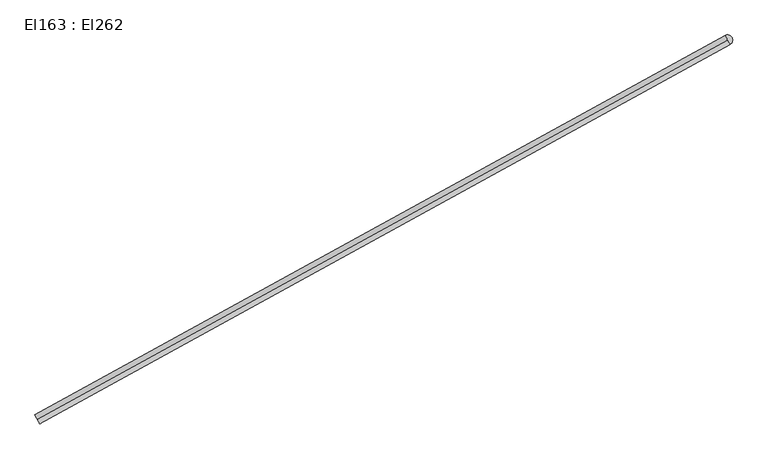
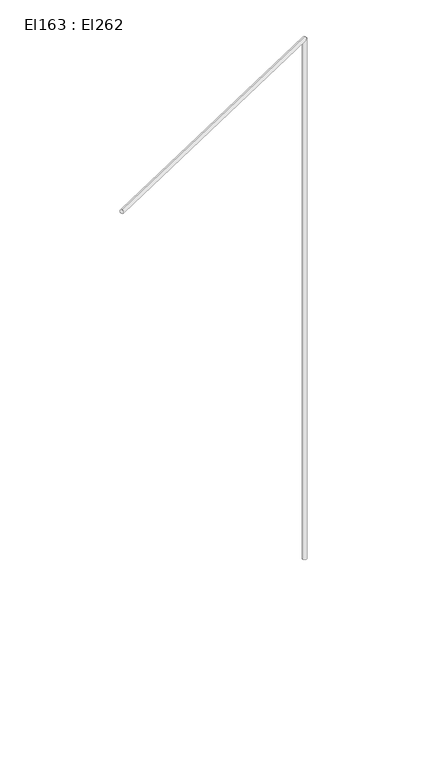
"""IFC4 building model written with IfcOpenShell, lengths in millimetres: cable carrier segment geometry, El163 : El262."""

from ifc_helpers import new_model, si_unit, point, frame, frame_2d, origin, place, context, project, spatial, circle_curve, trimmed, segment, composite_curve, outline, extrude, source, transform, mapped, element, save


def el163_el262_63760e00(model_context):
    return source(origin(), model_context, "Body", "SweptSolid", [
        extrude(outline(composite_curve([segment(trimmed(circle_curve(frame_2d((5364.4746511, 17433.4841745)), 9.5), [point((5354.9746511, 17433.4841745))], [point((5373.9746511, 17433.4841745))], False, "CARTESIAN"), True, "CONTINUOUS"), segment(trimmed(circle_curve(frame_2d((5364.4746511, 17433.4841745)), 9.5), [point((5373.9746511, 17433.4841745))], [point((5354.9746511, 17433.4841745))], False, "CARTESIAN"), True, "CONTINUOUS")], self_intersect=False)), frame((0.0, 0.0, 1830.0), z_axis=(0.0, 0.0, 1.0), x_axis=(1.0, 0.0, 0.0)), (0.0, 0.0, 1.0), 2620.0),
        extrude(outline(composite_curve([segment(trimmed(circle_curve(frame_2d((0.0, -9.5)), 9.5), [point((0.0, -19.0))], [point((0.0, 0.0))], False, "CARTESIAN"), True, "CONTINUOUS"), segment(trimmed(circle_curve(frame_2d((0.0, -9.5)), 9.5), [point((0.0, 0.0))], [point((0.0, -19.0))], False, "CARTESIAN"), True, "CONTINUOUS")], self_intersect=False)), frame((4088.4326511, 16731.7651745, 4459.5), z_axis=(0.8762460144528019, 0.481864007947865, 0.0), x_axis=(-0.481864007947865, 0.8762460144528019, 0.0)), (0.0, 0.0, 1.0), 1456.26),
    ])


if __name__ == "__main__":
    model = new_model("IFC4")
    model_context = context("Model", 3, world=origin())
    ifc_project = project(units=[si_unit("LENGTHUNIT", "METRE", prefix="MILLI")], contexts=[model_context])
    site = spatial("IfcSite", under=ifc_project)
    building = spatial("IfcBuilding", under=site)
    placement = place(None, origin())
    el163_el262_shape = el163_el262_63760e00(model_context)
    element("IfcCableCarrierSegment", 1, ObjectType="El163 : El262", at=placement, inside=building, context=model_context, shape_type="MappedRepresentation", body=[
        mapped(el163_el262_shape, transform((0.0, 0.0, 0.0), x_axis=(1.0, 0.0, 0.0), y_axis=(0.0, 1.0, 0.0), z_axis=(0.0, 0.0, 1.0))),
    ])
    save(model, "model.ifc")
